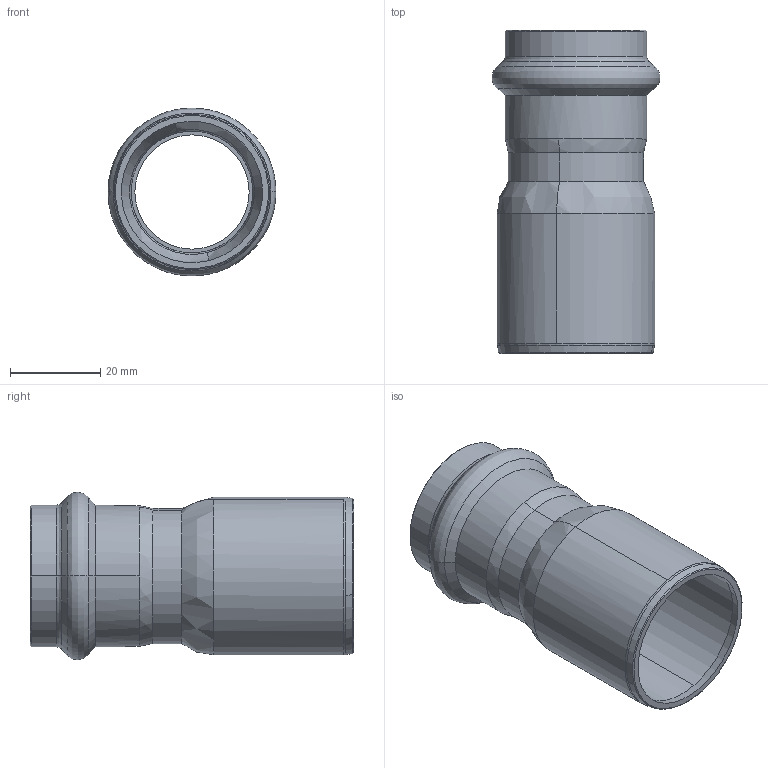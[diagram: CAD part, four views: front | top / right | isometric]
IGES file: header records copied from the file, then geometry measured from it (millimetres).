
Start section: Elysium IGES Interface
Global section: file name: C:\Users\Wallenburg\Desktop\3d modellen sudo\S-Pr VP\SP6243V\6243VW3528.igs; native system: CoCreate Modeling 17.00A  17-Jun-2010; preprocessor: CoCreate IGES_3D V2.2; author: Unknown; organization: Unknown; date: 20130124.092853; units: millimetre
Bounding box: 37.2 x 71.56 x 37.17 mm (x, y, z)
Volume: 12484.6 mm3; surface area: 15107.2 mm2
Topology: 1 solids, 1 shells, 58 faces, 134 edges, 80 vertices
Faces by surface type: bspline 58
